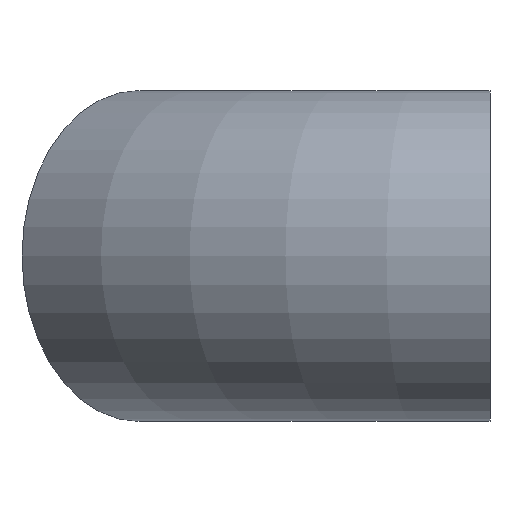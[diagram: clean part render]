
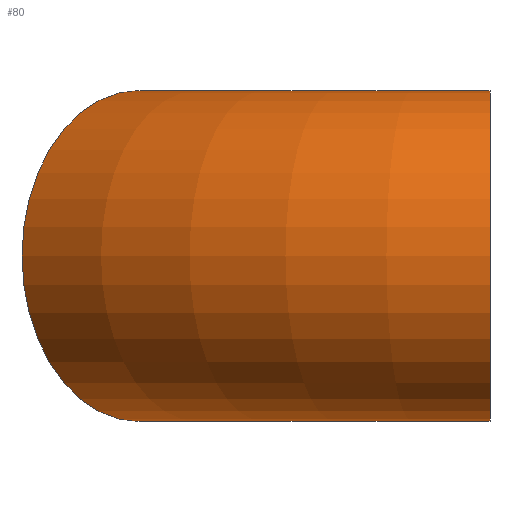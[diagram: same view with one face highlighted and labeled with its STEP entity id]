
A CAD part, left-side view. The second image highlights one B-rep face of the part: STEP entity #80.
In plain terms, the highlighted toroidal (fillet/blend) face has major radius 838.2 mm and minor radius 279.4 mm.
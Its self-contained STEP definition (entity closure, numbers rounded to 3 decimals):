
#20=FACE_OUTER_BOUND('',#24,.T.);
#24=EDGE_LOOP('',(#63,#64,#65,#66,#67,#68));
#34=CIRCLE('',#110,279.4);
#35=CIRCLE('',#111,279.4);
#36=CIRCLE('',#112,558.8);
#37=CIRCLE('',#113,279.4);
#38=CIRCLE('',#114,279.4);
#43=VERTEX_POINT('',#159);
#44=VERTEX_POINT('',#160);
#45=VERTEX_POINT('',#163);
#46=VERTEX_POINT('',#165);
#52=EDGE_CURVE('',#43,#44,#34,.T.);
#53=EDGE_CURVE('',#44,#43,#35,.T.);
#54=EDGE_CURVE('',#44,#45,#36,.T.);
#55=EDGE_CURVE('',#45,#46,#37,.T.);
#56=EDGE_CURVE('',#46,#45,#38,.T.);
#63=ORIENTED_EDGE('',*,*,#52,.F.);
#64=ORIENTED_EDGE('',*,*,#53,.F.);
#65=ORIENTED_EDGE('',*,*,#54,.T.);
#66=ORIENTED_EDGE('',*,*,#55,.T.);
#67=ORIENTED_EDGE('',*,*,#56,.T.);
#68=ORIENTED_EDGE('',*,*,#54,.F.);
#78=TOROIDAL_SURFACE('',#109,838.2,279.4);
#80=ADVANCED_FACE('',(#20),#78,.T.);
#109=AXIS2_PLACEMENT_3D('',#158,#131,#132);
#110=AXIS2_PLACEMENT_3D('',#161,#133,#134);
#111=AXIS2_PLACEMENT_3D('',#162,#135,#136);
#112=AXIS2_PLACEMENT_3D('',#164,#137,#138);
#113=AXIS2_PLACEMENT_3D('',#166,#139,#140);
#114=AXIS2_PLACEMENT_3D('',#167,#141,#142);
#131=DIRECTION('center_axis',(0.,0.,-1.));
#132=DIRECTION('ref_axis',(-1.,0.,0.));
#133=DIRECTION('center_axis',(0.707,0.707,0.));
#134=DIRECTION('ref_axis',(-0.707,0.707,0.));
#135=DIRECTION('center_axis',(0.707,0.707,0.));
#136=DIRECTION('ref_axis',(-0.707,0.707,0.));
#137=DIRECTION('center_axis',(0.,0.,1.));
#138=DIRECTION('ref_axis',(-1.,0.,0.));
#139=DIRECTION('center_axis',(0.,1.,0.));
#140=DIRECTION('ref_axis',(-1.,0.,0.));
#141=DIRECTION('center_axis',(0.,1.,0.));
#142=DIRECTION('ref_axis',(-1.,0.,0.));
#158=CARTESIAN_POINT('Origin',(0.,0.,0.));
#159=CARTESIAN_POINT('',(-790.263,790.263,0.));
#160=CARTESIAN_POINT('',(-395.131,395.131,0.));
#161=CARTESIAN_POINT('Origin',(-592.697,592.697,0.));
#162=CARTESIAN_POINT('Origin',(-592.697,592.697,0.));
#163=CARTESIAN_POINT('',(-558.8,0.,0.));
#164=CARTESIAN_POINT('Origin',(0.,0.,0.));
#165=CARTESIAN_POINT('',(-1117.6,0.,0.));
#166=CARTESIAN_POINT('Origin',(-838.2,0.,0.));
#167=CARTESIAN_POINT('Origin',(-838.2,0.,0.));
